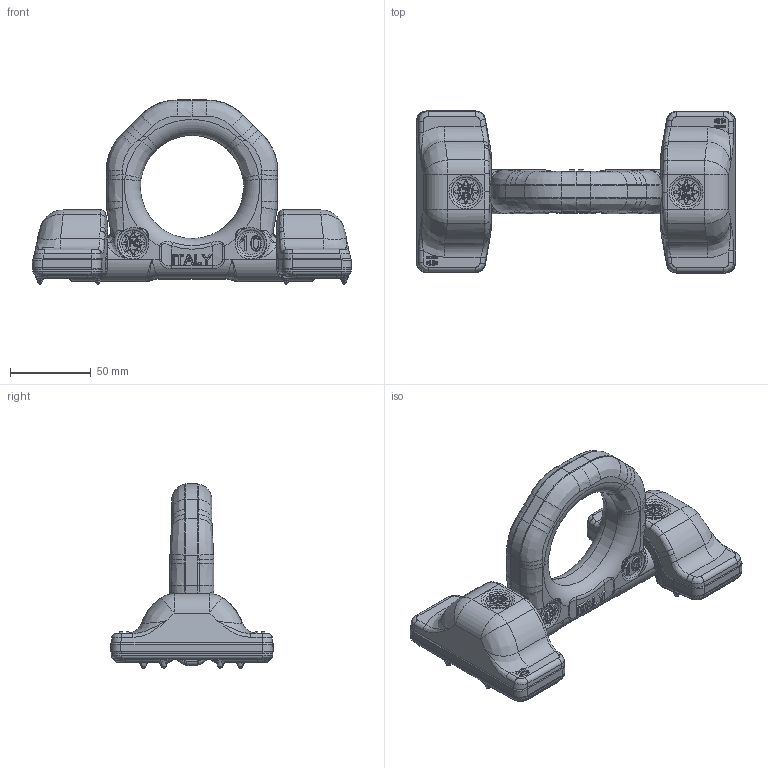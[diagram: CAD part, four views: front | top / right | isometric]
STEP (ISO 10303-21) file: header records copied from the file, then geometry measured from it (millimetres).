
FILE_DESCRIPTION((''),'2;1');
FILE_NAME('SFA-2909-0000_SFA-2610-0000_inclinazione_0°','2013-12-04T16:40:37',('Luca'),(''),'CADlook_v9.0','Cimatron E 8.0','');
FILE_SCHEMA(('AUTOMOTIVE_DESIGN { 1 2 10303 214 0 1 1 1 }'));
Length unit declared in the file: millimetre
Bounding box: 198 x 100.56 x 114.25 mm (x, y, z)
Volume: 413901.4 mm3; surface area: 63943.3 mm2
Topology: 3 solids, 3 shells, 1300 faces, 3228 edges, 1932 vertices
Faces by surface type: bspline 590, plane 333, cylinder 235, cone 58, torus 56, sphere 28
Full cylindrical faces by diameter (mm): 64 x1
Entity records: 99939 total; most frequent: CARTESIAN_POINT 62937, ORIENTED_EDGE 6320, DIRECTION 4341, EDGE_CURVE 3160, VERTEX_POINT 1932, AXIS2_PLACEMENT_3D 1631, EDGE_LOOP 1368, COLOUR_RGB 1303
